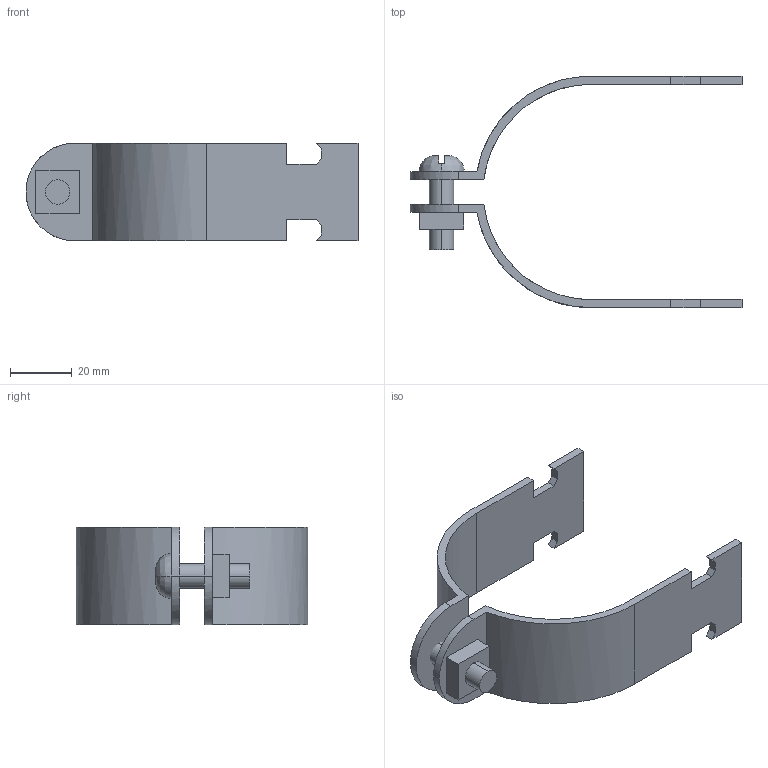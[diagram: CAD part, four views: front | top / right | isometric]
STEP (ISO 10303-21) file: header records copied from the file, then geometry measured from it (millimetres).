
FILE_DESCRIPTION(('TurboCAD Mac Pro'),'Build 980');
FILE_NAME('P2044.stp',' ',(''),(''),'ACIS Interop','IMSI','TurboCAD Mac Pro BY IMSI, INCORPORATED');
FILE_SCHEMA(('automotive_design'));
Length unit declared in the file: inch
Products named in the file (5): 1; 2; 3; 4; 5
Bounding box: 107.95 x 75.24 x 31.74 mm (x, y, z)
Volume: 22312.1 mm3; surface area: 18344.1 mm2
Topology: 4 solids, 4 shells, 75 faces, 194 edges, 128 vertices
Faces by surface type: plane 51, bspline 24
Entity records: 3579 total; most frequent: CARTESIAN_POINT 1122, ORIENTED_EDGE 388, DIRECTION 262, EDGE_CURVE 194, LINE 142, VECTOR 142, VERTEX_POINT 128, STYLED_ITEM 87
